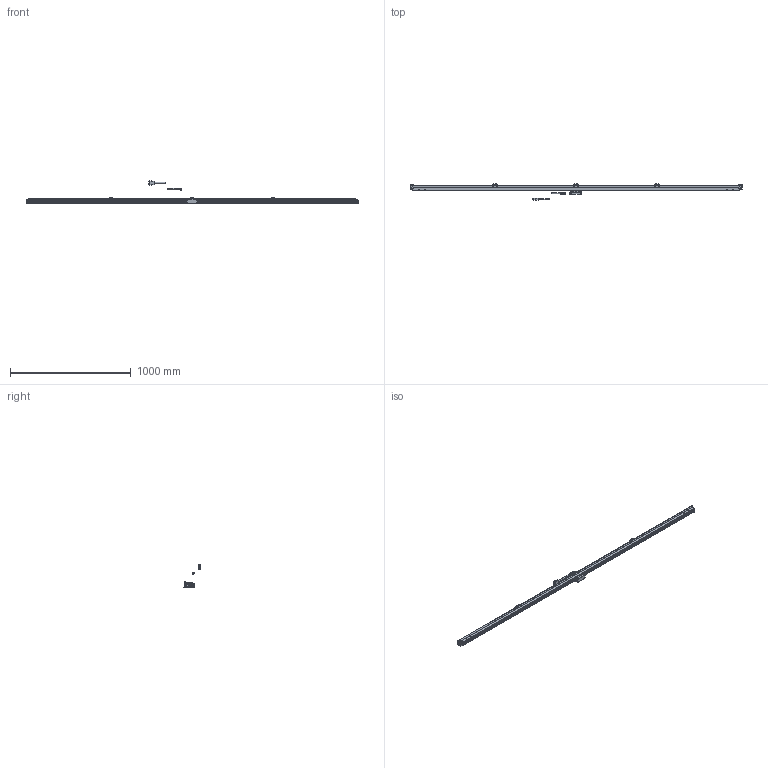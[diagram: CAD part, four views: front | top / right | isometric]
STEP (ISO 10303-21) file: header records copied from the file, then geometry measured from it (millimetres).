
FILE_DESCRIPTION(('Creo Elements/Direct Modeling STEP Export'),'2;1');
FILE_NAME('AT103_AT203-2500.stp','2018-01-05T15:18:28',(''),(''),'Creo Elements/Direct Modeling STEP processor for AP214 (Solid Model)','Creo Elements/Direct Modeling 18.1B 29-Sep-2012 (C) Parametric Technology GmbH','');
FILE_SCHEMA(('AUTOMOTIVE_DESIGN { 1 0 10303 214 1 1 1 1 }'));
Length unit declared in the file: millimetre
Products named in the file (6): Cable; Scale_2500; DetectorHead; Scale_2500.1; Cable.1; AT103_203-2500
Assembly tree (5 placements, depth 2):
  AT103_203-2500
    Cable.1
    Scale_2500.1
    DetectorHead
    Scale_2500
    Cable
Bounding box: 2748 x 136.5 x 190.1 mm (x, y, z)
Volume: 8285909 mm3; surface area: 1069525.1 mm2
Topology: 5 solids, 9 shells, 2467 faces, 6472 edges, 4027 vertices
Faces by surface type: plane 1520, cylinder 632, cone 192, torus 76, extrusion 16, sphere 16, bspline 11, revolution 4
Entity records: 79860 total; most frequent: CARTESIAN_POINT 14809, ORIENTED_EDGE 12910, DIRECTION 11459, EDGE_CURVE 6455, VECTOR 4087, LINE 4081, VERTEX_POINT 4027, AXIS2_PLACEMENT_3D 3683
